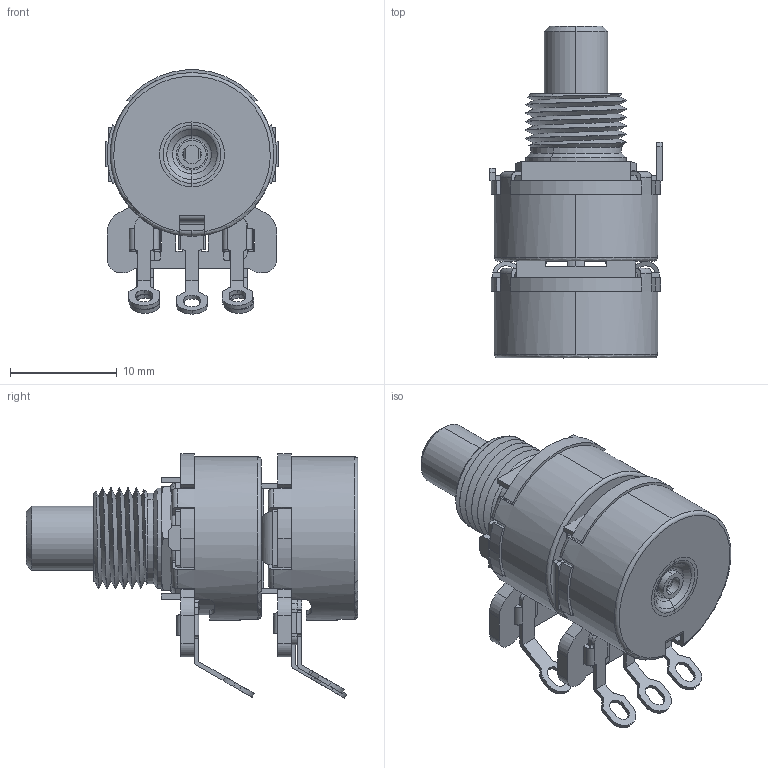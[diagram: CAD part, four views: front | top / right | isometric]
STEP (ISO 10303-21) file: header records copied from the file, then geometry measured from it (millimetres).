
FILE_DESCRIPTION (( 'STEP AP214' ), '1' );
FILE_NAME ('270T216X504B1D1.STEP', '2019-05-24T07:54:14', ( '' ), ( '' ), 'SwSTEP 2.0', 'SolidWorks 2019', '' );
FILE_SCHEMA (( 'AUTOMOTIVE_DESIGN' ));
Length unit declared in the file: millimetre
Products named in the file (16): 270-18-016-01-37(for 270-95-012); 270T216X504B1D1; 270-01-121-30-01G; 270-13-122-06-12 (for 270-95-012); 270-95-029-00-00; 270-02-001-41-01; 270-18-028-01-37(for 270-95-029); 270-06-004-01-53; 270-07-014-01-53; 270-40-010-02-37 for 270S2029A; 270-40-060-02-42; Shaft for 270T216X504B1D1; 270 element; 270-01-135-30-01G; 270-95-012-00-00(foe base 121); 270E-D-2298
Assembly tree (15 placements, depth 3):
  270T216X504B1D1
    270-40-060-02-42
    270-06-004-01-53
    270-40-010-02-37 for 270S2029A
    270-07-014-01-53
    Shaft for 270T216X504B1D1
    270E-D-2298
    270-95-012-00-00(foe base 121)
      270 element
      270-13-122-06-12 (for 270-95-012)
      270-18-016-01-37(for 270-95-012)
      270-01-121-30-01G
    270-95-029-00-00
      270-01-135-30-01G
      270-18-028-01-37(for 270-95-029)
    270-02-001-41-01
Bounding box: 16.16 x 31.14 x 22.91 mm (x, y, z)
Volume: 2255.6 mm3; surface area: 6574.8 mm2
Topology: 15 solids, 15 shells, 1109 faces, 3144 edges, 2065 vertices
Faces by surface type: plane 682, cylinder 338, cone 42, torus 41, bspline 6
Entity records: 37955 total; most frequent: CARTESIAN_POINT 8059, ORIENTED_EDGE 6288, DIRECTION 5994, EDGE_CURVE 3144, LINE 2092, VECTOR 2092, VERTEX_POINT 2065, AXIS2_PLACEMENT_3D 1951
